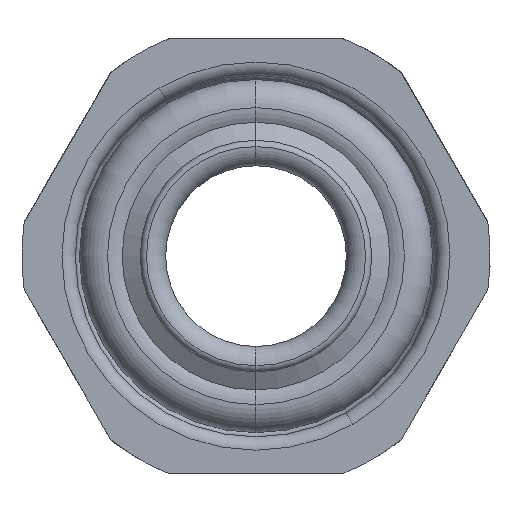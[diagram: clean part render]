
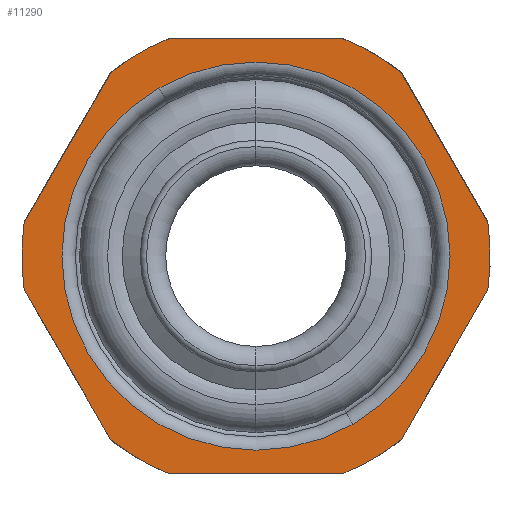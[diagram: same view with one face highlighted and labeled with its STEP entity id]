
A CAD part, left-side view. The second image highlights one B-rep face of the part: STEP entity #11290.
In plain terms, the highlighted planar face has unit normal (-1, 0, 0).
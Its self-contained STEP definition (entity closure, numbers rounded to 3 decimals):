
#7500=CARTESIAN_POINT('',(42.88,49.213,
-2.75));
#7510=VERTEX_POINT('',#7500);
#8010=CARTESIAN_POINT('',(42.88,50.512,
-0.5));
#8020=VERTEX_POINT('',#8010);
#8050=CARTESIAN_POINT('',(42.88,49.862,-1.625));
#8060=DIRECTION('',(0.,-0.5,-0.866));
#8070=VECTOR('',#8060,1.);
#8080=LINE('',#8050,#8070);
#8090=EDGE_CURVE('',#8020,#7510,#8080,.T.);
#10010=CARTESIAN_POINT('',(42.88,49.213,
2.75));
#10020=VERTEX_POINT('',#10010);
#10100=CARTESIAN_POINT('',(42.88,48.347,
3.25));
#10110=VERTEX_POINT('',#10100);
#10140=CARTESIAN_POINT('',(42.88,47.048,
0.));
#10150=DIRECTION('',(1.,0.,0.));
#10160=DIRECTION('',(0.,0.866,-0.5));
#10170=AXIS2_PLACEMENT_3D('',#10140,#10150,#10160);
#10180=CIRCLE('',#10170,3.5);
#10190=EDGE_CURVE('',#10020,#10110,#10180,.T.);
#10240=CARTESIAN_POINT('',(42.88,48.648,2.771))
;
#10250=DIRECTION('',(-1.,0.,0.));
#10260=DIRECTION('',(0.,-0.866,0.5));
#10270=AXIS2_PLACEMENT_3D('',#10240,#10250,#10260);
#10280=PLANE('',#10270);
#10290=CARTESIAN_POINT('',(42.88,47.048,
0.));
#10300=DIRECTION('',(1.,0.,0.));
#10310=DIRECTION('',(0.,0.5,
0.866));
#10320=AXIS2_PLACEMENT_3D('',#10290,#10300,#10310);
#10330=CIRCLE('',#10320,2.9);
#10340=CARTESIAN_POINT('',(42.88,48.498,2.511))
;
#10350=VERTEX_POINT('',#10340);
#10360=CARTESIAN_POINT('',(42.88,45.598,-2.511)
);
#10370=VERTEX_POINT('',#10360);
#10380=EDGE_CURVE('',#10350,#10370,#10330,.T.);
#10390=ORIENTED_EDGE('',*,*,#10380,.T.);
#10400=EDGE_CURVE('',#10370,#10350,#10330,.T.);
#10410=ORIENTED_EDGE('',*,*,#10400,.T.);
#10420=EDGE_LOOP('',(#10410,#10390));
#10430=FACE_BOUND('',#10420,.T.);
#10440=CARTESIAN_POINT('',(42.88,48.924,
3.25));
#10450=DIRECTION('',(0.,1.,0.));
#10460=VECTOR('',#10450,1.);
#10470=LINE('',#10440,#10460);
#10480=CARTESIAN_POINT('',(42.88,45.749,
3.25));
#10490=VERTEX_POINT('',#10480);
#10500=EDGE_CURVE('',#10490,#10110,#10470,.T.);
#10510=ORIENTED_EDGE('',*,*,#10500,.T.);
#10520=CARTESIAN_POINT('',(42.88,47.048,
0.));
#10530=DIRECTION('',(1.,0.,0.));
#10540=DIRECTION('',(0.,0.866,-0.5));
#10550=AXIS2_PLACEMENT_3D('',#10520,#10530,#10540);
#10560=CIRCLE('',#10550,3.5);
#10570=CARTESIAN_POINT('',(42.88,44.883,
2.75));
#10580=VERTEX_POINT('',#10570);
#10590=EDGE_CURVE('',#10490,#10580,#10560,.T.);
#10600=ORIENTED_EDGE('',*,*,#10590,.F.);
#10610=CARTESIAN_POINT('',(42.88,44.233,1.625));
#10620=DIRECTION('',(0.,0.5,0.866));
#10630=VECTOR('',#10620,1.);
#10640=LINE('',#10610,#10630);
#10650=CARTESIAN_POINT('',(42.88,43.583,
0.5));
#10660=VERTEX_POINT('',#10650);
#10670=EDGE_CURVE('',#10660,#10580,#10640,.T.);
#10680=ORIENTED_EDGE('',*,*,#10670,.T.);
#10690=CARTESIAN_POINT('',(42.88,47.048,
0.));
#10700=DIRECTION('',(1.,0.,0.));
#10710=DIRECTION('',(0.,0.866,-0.5));
#10720=AXIS2_PLACEMENT_3D('',#10690,#10700,#10710);
#10730=CIRCLE('',#10720,3.5);
#10740=CARTESIAN_POINT('',(42.88,43.583,
-0.5));
#10750=VERTEX_POINT('',#10740);
#10760=EDGE_CURVE('',#10660,#10750,#10730,.T.);
#10770=ORIENTED_EDGE('',*,*,#10760,.F.);
#10780=CARTESIAN_POINT('',(42.88,45.171,
-3.25));
#10790=DIRECTION('',(0.,-0.5,0.866));
#10800=VECTOR('',#10790,1.);
#10810=LINE('',#10780,#10800);
#10820=CARTESIAN_POINT('',(42.88,44.883,
-2.75));
#10830=VERTEX_POINT('',#10820);
#10840=EDGE_CURVE('',#10830,#10750,#10810,.T.);
#10850=ORIENTED_EDGE('',*,*,#10840,.T.);
#10860=CARTESIAN_POINT('',(42.88,47.048,
0.));
#10870=DIRECTION('',(1.,0.,0.));
#10880=DIRECTION('',(0.,0.866,-0.5));
#10890=AXIS2_PLACEMENT_3D('',#10860,#10870,#10880);
#10900=CIRCLE('',#10890,3.5);
#10910=CARTESIAN_POINT('',(42.88,45.749,-3.25));
#10920=VERTEX_POINT('',#10910);
#10930=EDGE_CURVE('',#10830,#10920,#10900,.T.);
#10940=ORIENTED_EDGE('',*,*,#10930,.F.);
#10950=CARTESIAN_POINT('',(42.88,45.171,
-3.25));
#10960=DIRECTION('',(0.,-1.,0.));
#10970=VECTOR('',#10960,1.);
#10980=LINE('',#10950,#10970);
#10990=CARTESIAN_POINT('',(42.88,48.347,-3.25));
#11000=VERTEX_POINT('',#10990);
#11010=EDGE_CURVE('',#11000,#10920,#10980,.T.);
#11020=ORIENTED_EDGE('',*,*,#11010,.T.);
#11030=CARTESIAN_POINT('',(42.88,47.048,
0.));
#11040=DIRECTION('',(1.,0.,0.));
#11050=DIRECTION('',(0.,0.866,-0.5));
#11060=AXIS2_PLACEMENT_3D('',#11030,#11040,#11050);
#11070=CIRCLE('',#11060,3.5);
#11080=EDGE_CURVE('',#11000,#7510,#11070,.T.);
#11090=ORIENTED_EDGE('',*,*,#11080,.F.);
#11100=ORIENTED_EDGE('',*,*,#8090,.T.);
#11110=CARTESIAN_POINT('',(42.88,47.048,
0.));
#11120=DIRECTION('',(1.,0.,0.));
#11130=DIRECTION('',(0.,0.866,-0.5));
#11140=AXIS2_PLACEMENT_3D('',#11110,#11120,#11130);
#11150=CIRCLE('',#11140,3.5);
#11160=CARTESIAN_POINT('',(42.88,50.512,
0.5));
#11170=VERTEX_POINT('',#11160);
#11180=EDGE_CURVE('',#8020,#11170,#11150,.T.);
#11190=ORIENTED_EDGE('',*,*,#11180,.F.);
#11200=CARTESIAN_POINT('',(42.88,48.924,
3.25));
#11210=DIRECTION('',(0.,0.5,-0.866));
#11220=VECTOR('',#11210,1.);
#11230=LINE('',#11200,#11220);
#11240=EDGE_CURVE('',#10020,#11170,#11230,.T.);
#11250=ORIENTED_EDGE('',*,*,#11240,.T.);
#11260=ORIENTED_EDGE('',*,*,#10190,.F.);
#11270=EDGE_LOOP('',(#11260,#11250,#11190,#11100,#11090,#11020,#10940,
#10850,#10770,#10680,#10600,#10510));
#11280=FACE_OUTER_BOUND('',#11270,.T.);
#11290=ADVANCED_FACE('',(#10430,#11280),#10280,.T.);
